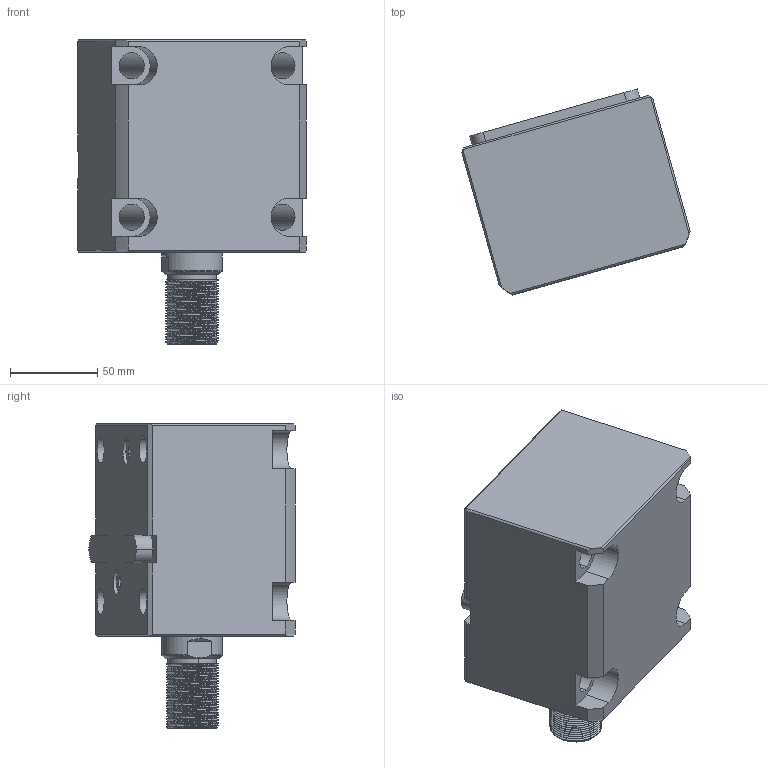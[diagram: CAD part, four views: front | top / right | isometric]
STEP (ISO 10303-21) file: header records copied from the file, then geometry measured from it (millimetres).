
FILE_DESCRIPTION (( 'STEP AP214' ), '1' );
FILE_NAME ('chtb-lam63x55w_asm.STEP', '2018-05-22T03:39:23', ( 'Windows' ), ( 'Microsoft' ), 'SwSTEP 2.0', 'SolidWorks 2015', '' );
FILE_SCHEMA (( 'AUTOMOTIVE_DESIGN' ));
Length unit declared in the file: millimetre
Products named in the file (5): CHTB-LAM63X55NBT; CHTB-LA63PJ; CHTB63X55WHSG; CHTB-63QG; chtb-lam63x55w_asm
Assembly tree (4 placements, depth 2):
  chtb-lam63x55w_asm
    CHTB-63QG
    CHTB63X55WHSG
    CHTB-LA63PJ
    CHTB-LAM63X55NBT
Bounding box: 131.29 x 118.4 x 175 mm (x, y, z)
Volume: 1081652.6 mm3; surface area: 159509.8 mm2
Topology: 4 solids, 4 shells, 236 faces, 696 edges, 473 vertices
Faces by surface type: cylinder 148, plane 58, bspline 15, cone 9, torus 6
Entity records: 23566 total; most frequent: CARTESIAN_POINT 17780, ORIENTED_EDGE 1384, DIRECTION 946, EDGE_CURVE 692, VERTEX_POINT 473, AXIS2_PLACEMENT_3D 344, EDGE_LOOP 259, VECTOR 258
